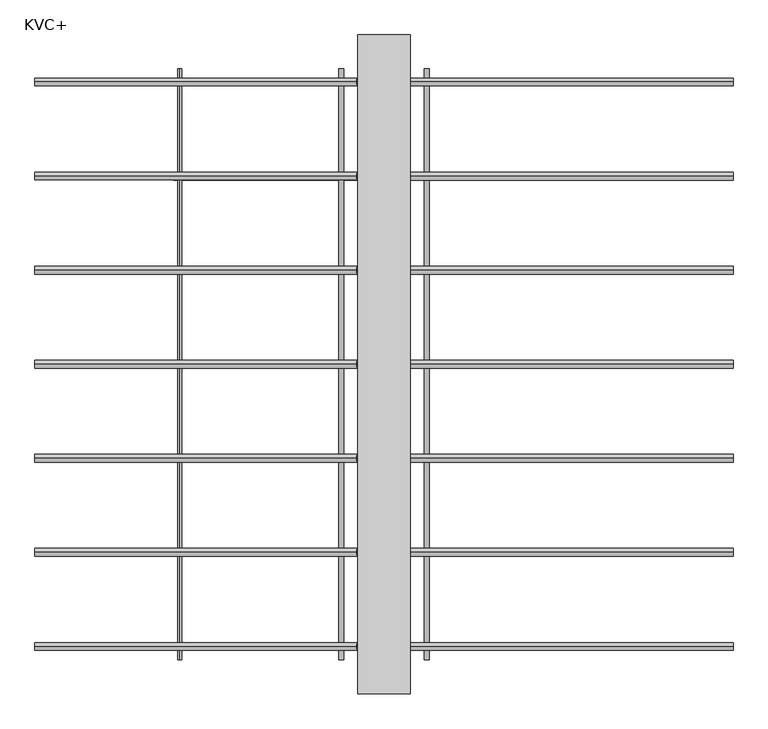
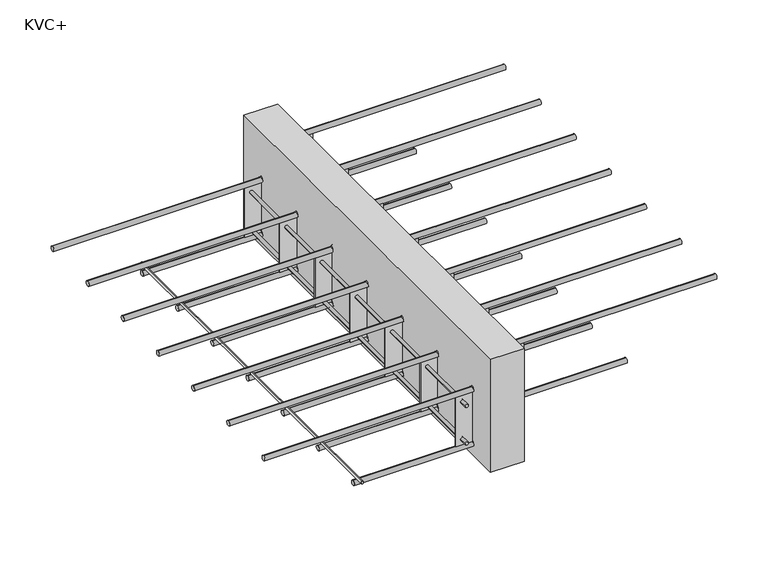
"""IFC4 building model written with IfcOpenShell, lengths in millimetres: proxy geometry, ACINOXplus_Typenreihe_KV : KVC+."""

from ifc_helpers import new_model, si_unit, point, frame, frame_2d, origin, place, context, project, spatial, polyline, circle_curve, ellipse_curve, trimmed, segment, composite_curve, outline, extrude, source, transform, mapped, element, save
from ifc_brep_helpers import plane_surface, cylinder_surface, advanced_brep


def kvc_4df102f3(model_context):
    return source(origin(), model_context, "Body", "SolidModel", [
        extrude(outline(polyline([(40.0, 500.0), (40.0, -500.0), (-40.0, -500.0), (-40.0, 500.0), (40.0, 500.0)])), frame((0.0, 0.0, -200.0), z_axis=(0.0, 0.0, 1.0), x_axis=(1.0, 0.0, 0.0)), (0.0, 0.0, 1.0), 280.0),
        extrude(outline(polyline([(-42.0, -40.0), (-42.0, -80.0), (-165.0, -80.0), (-165.0, -40.0), (-85.0, 40.0), (-85.0, 80.0), (38.0, 80.0), (38.0, 40.0), (-42.0, -40.0)])), frame((0.0, 284.2142857, 0.0), z_axis=(0.0, 1.0, 0.0), x_axis=(0.0, 0.0, 1.0)), (0.0, 0.0, 1.0), 3.0),
        extrude(outline(polyline([(-42.0, -40.0), (-42.0, -80.0), (-165.0, -80.0), (-165.0, -40.0), (-85.0, 40.0), (-85.0, 80.0), (38.0, 80.0), (38.0, 40.0), (-42.0, -40.0)])), frame((0.0, 141.3571429, 0.0), z_axis=(0.0, 1.0, 0.0), x_axis=(0.0, 0.0, 1.0)), (0.0, 0.0, 1.0), 3.0),
        extrude(outline(polyline([(-42.0, -40.0), (-42.0, -80.0), (-165.0, -80.0), (-165.0, -40.0), (-85.0, 40.0), (-85.0, 80.0), (38.0, 80.0), (38.0, 40.0), (-42.0, -40.0)])), frame((0.0, -1.5, 0.0), z_axis=(0.0, 1.0, 0.0), x_axis=(0.0, 0.0, 1.0)), (0.0, 0.0, 1.0), 3.0),
        extrude(outline(polyline([(-42.0, -40.0), (-42.0, -80.0), (-165.0, -80.0), (-165.0, -40.0), (-85.0, 40.0), (-85.0, 80.0), (38.0, 80.0), (38.0, 40.0), (-42.0, -40.0)])), frame((0.0, -144.3571429, 0.0), z_axis=(0.0, 1.0, 0.0), x_axis=(0.0, 0.0, 1.0)), (0.0, 0.0, 1.0), 3.0),
        extrude(outline(polyline([(-42.0, -40.0), (-42.0, -80.0), (-165.0, -80.0), (-165.0, -40.0), (-85.0, 40.0), (-85.0, 80.0), (38.0, 80.0), (38.0, 40.0), (-42.0, -40.0)])), frame((0.0, -287.2142857, 0.0), z_axis=(0.0, 1.0, 0.0), x_axis=(0.0, 0.0, 1.0)), (0.0, 0.0, 1.0), 3.0),
        extrude(outline(polyline([(-42.0, -40.0), (-42.0, -80.0), (-165.0, -80.0), (-165.0, -40.0), (-85.0, 40.0), (-85.0, 80.0), (38.0, 80.0), (38.0, 40.0), (-42.0, -40.0)])), frame((0.0, 427.0714286, 0.0), z_axis=(0.0, 1.0, 0.0), x_axis=(0.0, 0.0, 1.0)), (0.0, 0.0, 1.0), 3.0),
        extrude(outline(polyline([(-42.0, -40.0), (-42.0, -80.0), (-165.0, -80.0), (-165.0, -40.0), (-85.0, 40.0), (-85.0, 80.0), (38.0, 80.0), (38.0, 40.0), (-42.0, -40.0)])), frame((0.0, -430.0714286, 0.0), z_axis=(0.0, 1.0, 0.0), x_axis=(0.0, 0.0, 1.0)), (0.0, 0.0, 1.0), 3.0),
        extrude(outline(composite_curve([segment(trimmed(circle_curve(frame_2d((-150.0, -65.0)), 4.0), [point((-150.0, -69.0))], [point((-150.0, -61.0))], False, "CARTESIAN"), True, "CONTINUOUS"), segment(trimmed(circle_curve(frame_2d((-150.0, -65.0)), 4.0), [point((-150.0, -61.0))], [point((-150.0, -69.0))], False, "CARTESIAN"), True, "CONTINUOUS")], self_intersect=False)), frame((0.0, 430.0714286, 0.0), z_axis=(0.0, 1.0, 0.0), x_axis=(0.0, 0.0, 1.0)), (0.0, 0.0, 1.0), 18.5),
        extrude(outline(composite_curve([segment(trimmed(circle_curve(frame_2d((-150.0, -65.0)), 4.0), [point((-150.0, -61.0))], [point((-150.0, -69.0))], False, "CARTESIAN"), True, "CONTINUOUS"), segment(trimmed(circle_curve(frame_2d((-150.0, -65.0)), 4.0), [point((-150.0, -69.0))], [point((-150.0, -61.0))], False, "CARTESIAN"), True, "CONTINUOUS")], self_intersect=False)), frame((0.0, -448.5714286, 0.0), z_axis=(0.0, 1.0, 0.0), x_axis=(0.0, 0.0, 1.0)), (0.0, 0.0, 1.0), 18.5),
        extrude(outline(composite_curve([segment(trimmed(circle_curve(frame_2d((-150.0, -65.0)), 4.0), [point((-150.0, -69.0))], [point((-150.0, -61.0))], False, "CARTESIAN"), True, "CONTINUOUS"), segment(trimmed(circle_curve(frame_2d((-150.0, -65.0)), 4.0), [point((-150.0, -61.0))], [point((-150.0, -69.0))], False, "CARTESIAN"), True, "CONTINUOUS")], self_intersect=False)), frame((0.0, -427.0714286, 0.0), z_axis=(0.0, 1.0, 0.0), x_axis=(0.0, 0.0, 1.0)), (0.0, 0.0, 1.0), 139.8571429),
        extrude(outline(composite_curve([segment(trimmed(circle_curve(frame_2d((-150.0, -65.0)), 4.0), [point((-150.0, -69.0))], [point((-150.0, -61.0))], False, "CARTESIAN"), True, "CONTINUOUS"), segment(trimmed(circle_curve(frame_2d((-150.0, -65.0)), 4.0), [point((-150.0, -61.0))], [point((-150.0, -69.0))], False, "CARTESIAN"), True, "CONTINUOUS")], self_intersect=False)), frame((0.0, -284.2142857, 0.0), z_axis=(0.0, 1.0, 0.0), x_axis=(0.0, 0.0, 1.0)), (0.0, 0.0, 1.0), 711.2857143),
        extrude(outline(composite_curve([segment(trimmed(circle_curve(frame_2d((-70.0, 65.0)), 4.0), [point((-70.0, 61.0))], [point((-70.0, 69.0))], False, "CARTESIAN"), True, "CONTINUOUS"), segment(trimmed(circle_curve(frame_2d((-70.0, 65.0)), 4.0), [point((-70.0, 69.0))], [point((-70.0, 61.0))], False, "CARTESIAN"), True, "CONTINUOUS")], self_intersect=False)), frame((0.0, 430.0714286, 0.0), z_axis=(0.0, 1.0, 0.0), x_axis=(0.0, 0.0, 1.0)), (0.0, 0.0, 1.0), 18.5),
        extrude(outline(composite_curve([segment(trimmed(circle_curve(frame_2d((-70.0, 65.0)), 4.0), [point((-70.0, 69.0))], [point((-70.0, 61.0))], False, "CARTESIAN"), True, "CONTINUOUS"), segment(trimmed(circle_curve(frame_2d((-70.0, 65.0)), 4.0), [point((-70.0, 61.0))], [point((-70.0, 69.0))], False, "CARTESIAN"), True, "CONTINUOUS")], self_intersect=False)), frame((0.0, -448.5714286, 0.0), z_axis=(0.0, 1.0, 0.0), x_axis=(0.0, 0.0, 1.0)), (0.0, 0.0, 1.0), 18.5),
        extrude(outline(composite_curve([segment(trimmed(circle_curve(frame_2d((-70.0, 65.0)), 4.0), [point((-70.0, 61.0))], [point((-70.0, 69.0))], False, "CARTESIAN"), True, "CONTINUOUS"), segment(trimmed(circle_curve(frame_2d((-70.0, 65.0)), 4.0), [point((-70.0, 69.0))], [point((-70.0, 61.0))], False, "CARTESIAN"), True, "CONTINUOUS")], self_intersect=False)), frame((0.0, -284.2142857, 0.0), z_axis=(0.0, 1.0, 0.0), x_axis=(0.0, 0.0, 1.0)), (0.0, 0.0, 1.0), 711.2857143),
        extrude(outline(composite_curve([segment(trimmed(circle_curve(frame_2d((-70.0, 65.0)), 4.0), [point((-70.0, 61.0))], [point((-70.0, 69.0))], False, "CARTESIAN"), True, "CONTINUOUS"), segment(trimmed(circle_curve(frame_2d((-70.0, 65.0)), 4.0), [point((-70.0, 69.0))], [point((-70.0, 61.0))], False, "CARTESIAN"), True, "CONTINUOUS")], self_intersect=False)), frame((0.0, -427.0714286, 0.0), z_axis=(0.0, 1.0, 0.0), x_axis=(0.0, 0.0, 1.0)), (0.0, 0.0, 1.0), 139.8571429),
        extrude(outline(composite_curve([segment(trimmed(circle_curve(frame_2d((-57.0, -65.0)), 4.0), [point((-57.0, -69.0))], [point((-57.0, -61.0))], False, "CARTESIAN"), True, "CONTINUOUS"), segment(trimmed(circle_curve(frame_2d((-57.0, -65.0)), 4.0), [point((-57.0, -61.0))], [point((-57.0, -69.0))], False, "CARTESIAN"), True, "CONTINUOUS")], self_intersect=False)), frame((0.0, 430.0714286, 0.0), z_axis=(0.0, 1.0, 0.0), x_axis=(0.0, 0.0, 1.0)), (0.0, 0.0, 1.0), 18.5),
        extrude(outline(composite_curve([segment(trimmed(circle_curve(frame_2d((-57.0, -65.0)), 4.0), [point((-57.0, -61.0))], [point((-57.0, -69.0))], False, "CARTESIAN"), True, "CONTINUOUS"), segment(trimmed(circle_curve(frame_2d((-57.0, -65.0)), 4.0), [point((-57.0, -69.0))], [point((-57.0, -61.0))], False, "CARTESIAN"), True, "CONTINUOUS")], self_intersect=False)), frame((0.0, -448.5714286, 0.0), z_axis=(0.0, 1.0, 0.0), x_axis=(0.0, 0.0, 1.0)), (0.0, 0.0, 1.0), 18.5),
        extrude(outline(composite_curve([segment(trimmed(circle_curve(frame_2d((-57.0, -65.0)), 4.0), [point((-57.0, -69.0))], [point((-57.0, -61.0))], False, "CARTESIAN"), True, "CONTINUOUS"), segment(trimmed(circle_curve(frame_2d((-57.0, -65.0)), 4.0), [point((-57.0, -61.0))], [point((-57.0, -69.0))], False, "CARTESIAN"), True, "CONTINUOUS")], self_intersect=False)), frame((0.0, -427.0714286, 0.0), z_axis=(0.0, 1.0, 0.0), x_axis=(0.0, 0.0, 1.0)), (0.0, 0.0, 1.0), 139.8571429),
        extrude(outline(composite_curve([segment(trimmed(circle_curve(frame_2d((-57.0, -65.0)), 4.0), [point((-57.0, -69.0))], [point((-57.0, -61.0))], False, "CARTESIAN"), True, "CONTINUOUS"), segment(trimmed(circle_curve(frame_2d((-57.0, -65.0)), 4.0), [point((-57.0, -61.0))], [point((-57.0, -69.0))], False, "CARTESIAN"), True, "CONTINUOUS")], self_intersect=False)), frame((0.0, -284.2142857, 0.0), z_axis=(0.0, 1.0, 0.0), x_axis=(0.0, 0.0, 1.0)), (0.0, 0.0, 1.0), 711.2857143),
        extrude(outline(composite_curve([segment(trimmed(circle_curve(frame_2d((23.0, 65.0)), 4.0), [point((23.0, 61.0))], [point((23.0, 69.0))], False, "CARTESIAN"), True, "CONTINUOUS"), segment(trimmed(circle_curve(frame_2d((23.0, 65.0)), 4.0), [point((23.0, 69.0))], [point((23.0, 61.0))], False, "CARTESIAN"), True, "CONTINUOUS")], self_intersect=False)), frame((0.0, 430.0714286, 0.0), z_axis=(0.0, 1.0, 0.0), x_axis=(0.0, 0.0, 1.0)), (0.0, 0.0, 1.0), 18.5),
        extrude(outline(composite_curve([segment(trimmed(circle_curve(frame_2d((23.0, 65.0)), 4.0), [point((23.0, 69.0))], [point((23.0, 61.0))], False, "CARTESIAN"), True, "CONTINUOUS"), segment(trimmed(circle_curve(frame_2d((23.0, 65.0)), 4.0), [point((23.0, 61.0))], [point((23.0, 69.0))], False, "CARTESIAN"), True, "CONTINUOUS")], self_intersect=False)), frame((0.0, -448.5714286, 0.0), z_axis=(0.0, 1.0, 0.0), x_axis=(0.0, 0.0, 1.0)), (0.0, 0.0, 1.0), 18.5),
        extrude(outline(composite_curve([segment(trimmed(circle_curve(frame_2d((23.0, 65.0)), 4.0), [point((23.0, 61.0))], [point((23.0, 69.0))], False, "CARTESIAN"), True, "CONTINUOUS"), segment(trimmed(circle_curve(frame_2d((23.0, 65.0)), 4.0), [point((23.0, 69.0))], [point((23.0, 61.0))], False, "CARTESIAN"), True, "CONTINUOUS")], self_intersect=False)), frame((0.0, -284.2142857, 0.0), z_axis=(0.0, 1.0, 0.0), x_axis=(0.0, 0.0, 1.0)), (0.0, 0.0, 1.0), 711.2857143),
        extrude(outline(composite_curve([segment(trimmed(circle_curve(frame_2d((23.0, 65.0)), 4.0), [point((23.0, 61.0))], [point((23.0, 69.0))], False, "CARTESIAN"), True, "CONTINUOUS"), segment(trimmed(circle_curve(frame_2d((23.0, 65.0)), 4.0), [point((23.0, 69.0))], [point((23.0, 61.0))], False, "CARTESIAN"), True, "CONTINUOUS")], self_intersect=False)), frame((0.0, -427.0714286, 0.0), z_axis=(0.0, 1.0, 0.0), x_axis=(0.0, 0.0, 1.0)), (0.0, 0.0, 1.0), 139.8571429),
        advanced_brep(
        [(-320.0, 142.8571429, -177.0), (-320.0, 142.8571429, -165.0), (-37.5147186, 142.8571429, -177.0), (-42.4852814, 142.8571429, -165.0), (42.4852814, 142.8571429, -97.0), (37.5147186, 142.8571429, -85.0), (320.0, 142.8571429, -97.0), (320.0, 142.8571429, -85.0)],
        [
            (0, 1, circle_curve(frame((-320.0, 142.8571429, -171.0), z_axis=(-1.0, 0.0, 0.0), x_axis=(0.0, 0.0, 1.0)), 6.0)),
            (1, 0, circle_curve(frame((-320.0, 142.8571429, -171.0), z_axis=(-1.0, 0.0, 0.0), x_axis=(0.0, 0.0, 1.0)), 6.0)),
            (0, 2),
            (2, 3, ellipse_curve(frame((-40.0, 142.8571429, -171.0), z_axis=(-0.9238795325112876, 0.0, -0.382683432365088), x_axis=(-0.3826834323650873, 0.0, 0.923879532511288)), 6.4943532, 6.0)),
            (3, 1),
            (3, 2, ellipse_curve(frame((-40.0, 142.8571429, -171.0), z_axis=(-0.9238795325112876, 0.0, -0.382683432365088), x_axis=(-0.3826834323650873, 0.0, 0.923879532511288)), 6.4943532, 6.0)),
            (2, 4),
            (4, 5, ellipse_curve(frame((40.0, 142.8571429, -91.0), z_axis=(-0.9238795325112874, 0.0, -0.382683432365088), x_axis=(0.3826834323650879, 0.0, -0.9238795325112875)), 6.4943532, 6.0)),
            (5, 3),
            (5, 4, ellipse_curve(frame((40.0, 142.8571429, -91.0), z_axis=(-0.9238795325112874, 0.0, -0.382683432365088), x_axis=(0.3826834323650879, 0.0, -0.9238795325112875)), 6.4943532, 6.0)),
            (6, 7, circle_curve(frame((320.0, 142.8571429, -91.0), z_axis=(1.0, 0.0, 0.0), x_axis=(0.0, 0.0, 1.0)), 6.0)),
            (7, 6, circle_curve(frame((320.0, 142.8571429, -91.0), z_axis=(1.0, 0.0, 0.0), x_axis=(0.0, 0.0, 1.0)), 6.0)),
            (4, 6),
            (7, 5),
        ],
        [
            plane_surface(frame((-320.0, 142.8571429, -171.0), z_axis=(-1.0, 0.0, 0.0), x_axis=(0.0, -1.0, 0.0))),
            cylinder_surface(frame((-320.0, 142.8571429, -171.0), z_axis=(-1.0, 0.0, 0.0), x_axis=(0.0, 0.0, 1.0)), 6.0),
            cylinder_surface(frame((-40.0, 142.8571429, -171.0), z_axis=(-0.707106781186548, 0.0, -0.707106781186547), x_axis=(-0.707106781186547, 0.0, 0.707106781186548)), 6.0),
            plane_surface(frame((320.0, 142.8571429, -91.0), z_axis=(1.0, 0.0, 0.0), x_axis=(0.0, -1.0, 0.0))),
            cylinder_surface(frame((40.0, 142.8571429, -91.0), z_axis=(-1.0, 0.0, 0.0), x_axis=(0.0, 0.0, 1.0)), 6.0),
        ],
        [
            (0, [[1, 2]]),
            (1, [[-1, 3, 4, 5]]),
            (1, [[-2, -5, 6, -3]]),
            (2, [[-4, 7, 8, 9]]),
            (2, [[-6, -9, 10, -7]]),
            (3, [[11, 12]]),
            (4, [[-8, 13, -12, 14]]),
            (4, [[-10, -14, -11, -13]]),
        ],
    ),
        advanced_brep(
        [(-320.0, 0.0, -177.0), (-320.0, 0.0, -165.0), (-37.5147186, 0.0, -177.0), (-42.4852814, 0.0, -165.0), (42.4852814, 0.0, -97.0), (37.5147186, 0.0, -85.0), (320.0, 0.0, -97.0), (320.0, 0.0, -85.0)],
        [
            (0, 1, circle_curve(frame((-320.0, 0.0, -171.0), z_axis=(-1.0, 0.0, 0.0), x_axis=(0.0, 0.0, 1.0)), 6.0)),
            (1, 0, circle_curve(frame((-320.0, 0.0, -171.0), z_axis=(-1.0, 0.0, 0.0), x_axis=(0.0, 0.0, 1.0)), 6.0)),
            (0, 2),
            (2, 3, ellipse_curve(frame((-40.0, 0.0, -171.0), z_axis=(-0.9238795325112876, 0.0, -0.382683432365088), x_axis=(-0.3826834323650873, 0.0, 0.923879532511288)), 6.4943532, 6.0)),
            (3, 1),
            (3, 2, ellipse_curve(frame((-40.0, 0.0, -171.0), z_axis=(-0.9238795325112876, 0.0, -0.382683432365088), x_axis=(-0.3826834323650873, 0.0, 0.923879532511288)), 6.4943532, 6.0)),
            (2, 4),
            (4, 5, ellipse_curve(frame((40.0, 0.0, -91.0), z_axis=(-0.9238795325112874, 0.0, -0.382683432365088), x_axis=(0.3826834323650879, 0.0, -0.9238795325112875)), 6.4943532, 6.0)),
            (5, 3),
            (5, 4, ellipse_curve(frame((40.0, 0.0, -91.0), z_axis=(-0.9238795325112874, 0.0, -0.382683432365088), x_axis=(0.3826834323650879, 0.0, -0.9238795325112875)), 6.4943532, 6.0)),
            (6, 7, circle_curve(frame((320.0, 0.0, -91.0), z_axis=(1.0, 0.0, 0.0), x_axis=(0.0, 0.0, 1.0)), 6.0)),
            (7, 6, circle_curve(frame((320.0, 0.0, -91.0), z_axis=(1.0, 0.0, 0.0), x_axis=(0.0, 0.0, 1.0)), 6.0)),
            (4, 6),
            (7, 5),
        ],
        [
            plane_surface(frame((-320.0, 0.0, -171.0), z_axis=(-1.0, 0.0, 0.0), x_axis=(0.0, -1.0, 0.0))),
            cylinder_surface(frame((-320.0, 0.0, -171.0), z_axis=(-1.0, 0.0, 0.0), x_axis=(0.0, 0.0, 1.0)), 6.0),
            cylinder_surface(frame((-40.0, 0.0, -171.0), z_axis=(-0.707106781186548, 0.0, -0.707106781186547), x_axis=(-0.707106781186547, 0.0, 0.707106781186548)), 6.0),
            plane_surface(frame((320.0, 0.0, -91.0), z_axis=(1.0, 0.0, 0.0), x_axis=(0.0, -1.0, 0.0))),
            cylinder_surface(frame((40.0, 0.0, -91.0), z_axis=(-1.0, 0.0, 0.0), x_axis=(0.0, 0.0, 1.0)), 6.0),
        ],
        [
            (0, [[1, 2]]),
            (1, [[-1, 3, 4, 5]]),
            (1, [[-2, -5, 6, -3]]),
            (2, [[-4, 7, 8, 9]]),
            (2, [[-6, -9, 10, -7]]),
            (3, [[11, 12]]),
            (4, [[-8, 13, -12, 14]]),
            (4, [[-10, -14, -11, -13]]),
        ],
    ),
        advanced_brep(
        [(-320.0, -142.8571429, -177.0), (-320.0, -142.8571429, -165.0), (-37.5147186, -142.8571429, -177.0), (-42.4852814, -142.8571429, -165.0), (42.4852814, -142.8571429, -97.0), (37.5147186, -142.8571429, -85.0), (320.0, -142.8571429, -97.0), (320.0, -142.8571429, -85.0)],
        [
            (0, 1, circle_curve(frame((-320.0, -142.8571429, -171.0), z_axis=(-1.0, 0.0, 0.0), x_axis=(0.0, 0.0, 1.0)), 6.0)),
            (1, 0, circle_curve(frame((-320.0, -142.8571429, -171.0), z_axis=(-1.0, 0.0, 0.0), x_axis=(0.0, 0.0, 1.0)), 6.0)),
            (0, 2),
            (2, 3, ellipse_curve(frame((-40.0, -142.8571429, -171.0), z_axis=(-0.9238795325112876, 0.0, -0.382683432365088), x_axis=(-0.3826834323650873, 0.0, 0.923879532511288)), 6.4943532, 6.0)),
            (3, 1),
            (3, 2, ellipse_curve(frame((-40.0, -142.8571429, -171.0), z_axis=(-0.9238795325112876, 0.0, -0.382683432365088), x_axis=(-0.3826834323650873, 0.0, 0.923879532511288)), 6.4943532, 6.0)),
            (2, 4),
            (4, 5, ellipse_curve(frame((40.0, -142.8571429, -91.0), z_axis=(-0.9238795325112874, 0.0, -0.382683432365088), x_axis=(0.3826834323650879, 0.0, -0.9238795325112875)), 6.4943532, 6.0)),
            (5, 3),
            (5, 4, ellipse_curve(frame((40.0, -142.8571429, -91.0), z_axis=(-0.9238795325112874, 0.0, -0.382683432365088), x_axis=(0.3826834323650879, 0.0, -0.9238795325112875)), 6.4943532, 6.0)),
            (6, 7, circle_curve(frame((320.0, -142.8571429, -91.0), z_axis=(1.0, 0.0, 0.0), x_axis=(0.0, 0.0, 1.0)), 6.0)),
            (7, 6, circle_curve(frame((320.0, -142.8571429, -91.0), z_axis=(1.0, 0.0, 0.0), x_axis=(0.0, 0.0, 1.0)), 6.0)),
            (4, 6),
            (7, 5),
        ],
        [
            plane_surface(frame((-320.0, -142.8571429, -171.0), z_axis=(-1.0, 0.0, 0.0), x_axis=(0.0, -1.0, 0.0))),
            cylinder_surface(frame((-320.0, -142.8571429, -171.0), z_axis=(-1.0, 0.0, 0.0), x_axis=(0.0, 0.0, 1.0)), 6.0),
            cylinder_surface(frame((-40.0, -142.8571429, -171.0), z_axis=(-0.707106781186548, 0.0, -0.707106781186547), x_axis=(-0.707106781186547, 0.0, 0.707106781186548)), 6.0),
            plane_surface(frame((320.0, -142.8571429, -91.0), z_axis=(1.0, 0.0, 0.0), x_axis=(0.0, -1.0, 0.0))),
            cylinder_surface(frame((40.0, -142.8571429, -91.0), z_axis=(-1.0, 0.0, 0.0), x_axis=(0.0, 0.0, 1.0)), 6.0),
        ],
        [
            (0, [[1, 2]]),
            (1, [[-1, 3, 4, 5]]),
            (1, [[-2, -5, 6, -3]]),
            (2, [[-4, 7, 8, 9]]),
            (2, [[-6, -9, 10, -7]]),
            (3, [[11, 12]]),
            (4, [[-8, 13, -12, 14]]),
            (4, [[-10, -14, -11, -13]]),
        ],
    ),
        advanced_brep(
        [(-320.0, 285.7142857, -177.0), (-320.0, 285.7142857, -165.0), (-37.5147186, 285.7142857, -177.0), (-42.4852814, 285.7142857, -165.0), (42.4852814, 285.7142857, -97.0), (37.5147186, 285.7142857, -85.0), (320.0, 285.7142857, -97.0), (320.0, 285.7142857, -85.0)],
        [
            (0, 1, circle_curve(frame((-320.0, 285.7142857, -171.0), z_axis=(-1.0, 0.0, 0.0), x_axis=(0.0, 0.0, 1.0)), 6.0)),
            (1, 0, circle_curve(frame((-320.0, 285.7142857, -171.0), z_axis=(-1.0, 0.0, 0.0), x_axis=(0.0, 0.0, 1.0)), 6.0)),
            (0, 2),
            (2, 3, ellipse_curve(frame((-40.0, 285.7142857, -171.0), z_axis=(-0.9238795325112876, 0.0, -0.382683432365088), x_axis=(-0.3826834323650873, 0.0, 0.923879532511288)), 6.4943532, 6.0)),
            (3, 1),
            (3, 2, ellipse_curve(frame((-40.0, 285.7142857, -171.0), z_axis=(-0.9238795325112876, 0.0, -0.382683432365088), x_axis=(-0.3826834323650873, 0.0, 0.923879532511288)), 6.4943532, 6.0)),
            (2, 4),
            (4, 5, ellipse_curve(frame((40.0, 285.7142857, -91.0), z_axis=(-0.9238795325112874, 0.0, -0.382683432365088), x_axis=(0.3826834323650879, 0.0, -0.9238795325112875)), 6.4943532, 6.0)),
            (5, 3),
            (5, 4, ellipse_curve(frame((40.0, 285.7142857, -91.0), z_axis=(-0.9238795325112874, 0.0, -0.382683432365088), x_axis=(0.3826834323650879, 0.0, -0.9238795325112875)), 6.4943532, 6.0)),
            (6, 7, circle_curve(frame((320.0, 285.7142857, -91.0), z_axis=(1.0, 0.0, 0.0), x_axis=(0.0, 0.0, 1.0)), 6.0)),
            (7, 6, circle_curve(frame((320.0, 285.7142857, -91.0), z_axis=(1.0, 0.0, 0.0), x_axis=(0.0, 0.0, 1.0)), 6.0)),
            (4, 6),
            (7, 5),
        ],
        [
            plane_surface(frame((-320.0, 285.7142857, -171.0), z_axis=(-1.0, 0.0, 0.0), x_axis=(0.0, -1.0, 0.0))),
            cylinder_surface(frame((-320.0, 285.7142857, -171.0), z_axis=(-1.0, 0.0, 0.0), x_axis=(0.0, 0.0, 1.0)), 6.0),
            cylinder_surface(frame((-40.0, 285.7142857, -171.0), z_axis=(-0.707106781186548, 0.0, -0.707106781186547), x_axis=(-0.707106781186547, 0.0, 0.707106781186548)), 6.0),
            plane_surface(frame((320.0, 285.7142857, -91.0), z_axis=(1.0, 0.0, 0.0), x_axis=(0.0, -1.0, 0.0))),
            cylinder_surface(frame((40.0, 285.7142857, -91.0), z_axis=(-1.0, 0.0, 0.0), x_axis=(0.0, 0.0, 1.0)), 6.0),
        ],
        [
            (0, [[1, 2]]),
            (1, [[-1, 3, 4, 5]]),
            (1, [[-2, -5, 6, -3]]),
            (2, [[-4, 7, 8, 9]]),
            (2, [[-6, -9, 10, -7]]),
            (3, [[11, 12]]),
            (4, [[-8, 13, -12, 14]]),
            (4, [[-10, -14, -11, -13]]),
        ],
    ),
        advanced_brep(
        [(-320.0, 428.5714286, -177.0), (-320.0, 428.5714286, -165.0), (-37.5147186, 428.5714286, -177.0), (-42.4852814, 428.5714286, -165.0), (42.4852814, 428.5714286, -97.0), (37.5147186, 428.5714286, -85.0), (320.0, 428.5714286, -97.0), (320.0, 428.5714286, -85.0)],
        [
            (0, 1, circle_curve(frame((-320.0, 428.5714286, -171.0), z_axis=(-1.0, 0.0, 0.0), x_axis=(0.0, 0.0, 1.0)), 6.0)),
            (1, 0, circle_curve(frame((-320.0, 428.5714286, -171.0), z_axis=(-1.0, 0.0, 0.0), x_axis=(0.0, 0.0, 1.0)), 6.0)),
            (0, 2),
            (2, 3, ellipse_curve(frame((-40.0, 428.5714286, -171.0), z_axis=(-0.9238795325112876, 0.0, -0.382683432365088), x_axis=(-0.3826834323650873, 0.0, 0.923879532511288)), 6.4943532, 6.0)),
            (3, 1),
            (3, 2, ellipse_curve(frame((-40.0, 428.5714286, -171.0), z_axis=(-0.9238795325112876, 0.0, -0.382683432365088), x_axis=(-0.3826834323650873, 0.0, 0.923879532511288)), 6.4943532, 6.0)),
            (2, 4),
            (4, 5, ellipse_curve(frame((40.0, 428.5714286, -91.0), z_axis=(-0.9238795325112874, 0.0, -0.382683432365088), x_axis=(0.3826834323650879, 0.0, -0.9238795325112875)), 6.4943532, 6.0)),
            (5, 3),
            (5, 4, ellipse_curve(frame((40.0, 428.5714286, -91.0), z_axis=(-0.9238795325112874, 0.0, -0.382683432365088), x_axis=(0.3826834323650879, 0.0, -0.9238795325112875)), 6.4943532, 6.0)),
            (6, 7, circle_curve(frame((320.0, 428.5714286, -91.0), z_axis=(1.0, 0.0, 0.0), x_axis=(0.0, 0.0, 1.0)), 6.0)),
            (7, 6, circle_curve(frame((320.0, 428.5714286, -91.0), z_axis=(1.0, 0.0, 0.0), x_axis=(0.0, 0.0, 1.0)), 6.0)),
            (4, 6),
            (7, 5),
        ],
        [
            plane_surface(frame((-320.0, 428.5714286, -171.0), z_axis=(-1.0, 0.0, 0.0), x_axis=(0.0, -1.0, 0.0))),
            cylinder_surface(frame((-320.0, 428.5714286, -171.0), z_axis=(-1.0, 0.0, 0.0), x_axis=(0.0, 0.0, 1.0)), 6.0),
            cylinder_surface(frame((-40.0, 428.5714286, -171.0), z_axis=(-0.707106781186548, 0.0, -0.707106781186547), x_axis=(-0.707106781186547, 0.0, 0.707106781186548)), 6.0),
            plane_surface(frame((320.0, 428.5714286, -91.0), z_axis=(1.0, 0.0, 0.0), x_axis=(0.0, -1.0, 0.0))),
            cylinder_surface(frame((40.0, 428.5714286, -91.0), z_axis=(-1.0, 0.0, 0.0), x_axis=(0.0, 0.0, 1.0)), 6.0),
        ],
        [
            (0, [[1, 2]]),
            (1, [[-1, 3, 4, 5]]),
            (1, [[-2, -5, 6, -3]]),
            (2, [[-4, 7, 8, 9]]),
            (2, [[-6, -9, 10, -7]]),
            (3, [[11, 12]]),
            (4, [[-8, 13, -12, 14]]),
            (4, [[-10, -14, -11, -13]]),
        ],
    ),
        advanced_brep(
        [(-320.0, -285.7142857, -177.0), (-320.0, -285.7142857, -165.0), (-37.5147186, -285.7142857, -177.0), (-42.4852814, -285.7142857, -165.0), (42.4852814, -285.7142857, -97.0), (37.5147186, -285.7142857, -85.0), (320.0, -285.7142857, -97.0), (320.0, -285.7142857, -85.0)],
        [
            (0, 1, circle_curve(frame((-320.0, -285.7142857, -171.0), z_axis=(-1.0, 0.0, 0.0), x_axis=(0.0, 0.0, 1.0)), 6.0)),
            (1, 0, circle_curve(frame((-320.0, -285.7142857, -171.0), z_axis=(-1.0, 0.0, 0.0), x_axis=(0.0, 0.0, 1.0)), 6.0)),
            (0, 2),
            (2, 3, ellipse_curve(frame((-40.0, -285.7142857, -171.0), z_axis=(-0.9238795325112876, 0.0, -0.382683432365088), x_axis=(-0.3826834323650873, 0.0, 0.923879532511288)), 6.4943532, 6.0)),
            (3, 1),
            (3, 2, ellipse_curve(frame((-40.0, -285.7142857, -171.0), z_axis=(-0.9238795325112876, 0.0, -0.382683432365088), x_axis=(-0.3826834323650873, 0.0, 0.923879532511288)), 6.4943532, 6.0)),
            (2, 4),
            (4, 5, ellipse_curve(frame((40.0, -285.7142857, -91.0), z_axis=(-0.9238795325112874, 0.0, -0.382683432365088), x_axis=(0.3826834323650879, 0.0, -0.9238795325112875)), 6.4943532, 6.0)),
            (5, 3),
            (5, 4, ellipse_curve(frame((40.0, -285.7142857, -91.0), z_axis=(-0.9238795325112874, 0.0, -0.382683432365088), x_axis=(0.3826834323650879, 0.0, -0.9238795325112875)), 6.4943532, 6.0)),
            (6, 7, circle_curve(frame((320.0, -285.7142857, -91.0), z_axis=(1.0, 0.0, 0.0), x_axis=(0.0, 0.0, 1.0)), 6.0)),
            (7, 6, circle_curve(frame((320.0, -285.7142857, -91.0), z_axis=(1.0, 0.0, 0.0), x_axis=(0.0, 0.0, 1.0)), 6.0)),
            (4, 6),
            (7, 5),
        ],
        [
            plane_surface(frame((-320.0, -285.7142857, -171.0), z_axis=(-1.0, 0.0, 0.0), x_axis=(0.0, -1.0, 0.0))),
            cylinder_surface(frame((-320.0, -285.7142857, -171.0), z_axis=(-1.0, 0.0, 0.0), x_axis=(0.0, 0.0, 1.0)), 6.0),
            cylinder_surface(frame((-40.0, -285.7142857, -171.0), z_axis=(-0.707106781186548, 0.0, -0.707106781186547), x_axis=(-0.707106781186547, 0.0, 0.707106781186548)), 6.0),
            plane_surface(frame((320.0, -285.7142857, -91.0), z_axis=(1.0, 0.0, 0.0), x_axis=(0.0, -1.0, 0.0))),
            cylinder_surface(frame((40.0, -285.7142857, -91.0), z_axis=(-1.0, 0.0, 0.0), x_axis=(0.0, 0.0, 1.0)), 6.0),
        ],
        [
            (0, [[1, 2]]),
            (1, [[-1, 3, 4, 5]]),
            (1, [[-2, -5, 6, -3]]),
            (2, [[-4, 7, 8, 9]]),
            (2, [[-6, -9, 10, -7]]),
            (3, [[11, 12]]),
            (4, [[-8, 13, -12, 14]]),
            (4, [[-10, -14, -11, -13]]),
        ],
    ),
        advanced_brep(
        [(-320.0, -428.5714286, -177.0), (-320.0, -428.5714286, -165.0), (-37.5147186, -428.5714286, -177.0), (-42.4852814, -428.5714286, -165.0), (42.4852814, -428.5714286, -97.0), (37.5147186, -428.5714286, -85.0), (320.0, -428.5714286, -97.0), (320.0, -428.5714286, -85.0)],
        [
            (0, 1, circle_curve(frame((-320.0, -428.5714286, -171.0), z_axis=(-1.0, 0.0, 0.0), x_axis=(0.0, 0.0, 1.0)), 6.0)),
            (1, 0, circle_curve(frame((-320.0, -428.5714286, -171.0), z_axis=(-1.0, 0.0, 0.0), x_axis=(0.0, 0.0, 1.0)), 6.0)),
            (0, 2),
            (2, 3, ellipse_curve(frame((-40.0, -428.5714286, -171.0), z_axis=(-0.9238795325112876, 0.0, -0.382683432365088), x_axis=(-0.3826834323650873, 0.0, 0.923879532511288)), 6.4943532, 6.0)),
            (3, 1),
            (3, 2, ellipse_curve(frame((-40.0, -428.5714286, -171.0), z_axis=(-0.9238795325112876, 0.0, -0.382683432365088), x_axis=(-0.3826834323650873, 0.0, 0.923879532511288)), 6.4943532, 6.0)),
            (2, 4),
            (4, 5, ellipse_curve(frame((40.0, -428.5714286, -91.0), z_axis=(-0.9238795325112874, 0.0, -0.382683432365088), x_axis=(0.3826834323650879, 0.0, -0.9238795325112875)), 6.4943532, 6.0)),
            (5, 3),
            (5, 4, ellipse_curve(frame((40.0, -428.5714286, -91.0), z_axis=(-0.9238795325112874, 0.0, -0.382683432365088), x_axis=(0.3826834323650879, 0.0, -0.9238795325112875)), 6.4943532, 6.0)),
            (6, 7, circle_curve(frame((320.0, -428.5714286, -91.0), z_axis=(1.0, 0.0, 0.0), x_axis=(0.0, 0.0, 1.0)), 6.0)),
            (7, 6, circle_curve(frame((320.0, -428.5714286, -91.0), z_axis=(1.0, 0.0, 0.0), x_axis=(0.0, 0.0, 1.0)), 6.0)),
            (4, 6),
            (7, 5),
        ],
        [
            plane_surface(frame((-320.0, -428.5714286, -171.0), z_axis=(-1.0, 0.0, 0.0), x_axis=(0.0, -1.0, 0.0))),
            cylinder_surface(frame((-320.0, -428.5714286, -171.0), z_axis=(-1.0, 0.0, 0.0), x_axis=(0.0, 0.0, 1.0)), 6.0),
            cylinder_surface(frame((-40.0, -428.5714286, -171.0), z_axis=(-0.707106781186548, 0.0, -0.707106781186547), x_axis=(-0.707106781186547, 0.0, 0.707106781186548)), 6.0),
            plane_surface(frame((320.0, -428.5714286, -91.0), z_axis=(1.0, 0.0, 0.0), x_axis=(0.0, -1.0, 0.0))),
            cylinder_surface(frame((40.0, -428.5714286, -91.0), z_axis=(-1.0, 0.0, 0.0), x_axis=(0.0, 0.0, 1.0)), 6.0),
        ],
        [
            (0, [[1, 2]]),
            (1, [[-1, 3, 4, 5]]),
            (1, [[-2, -5, 6, -3]]),
            (2, [[-4, 7, 8, 9]]),
            (2, [[-6, -9, 10, -7]]),
            (3, [[11, 12]]),
            (4, [[-8, 13, -12, 14]]),
            (4, [[-10, -14, -11, -13]]),
        ],
    ),
        advanced_brep(
        [(-530.0, 142.8571429, -42.0), (-530.0, 142.8571429, -30.0), (-37.5147186, 142.8571429, -42.0), (-42.4852814, 142.8571429, -30.0), (530.0, 142.8571429, 38.0), (530.0, 142.8571429, 50.0), (37.5147186, 142.8571429, 50.0), (42.4852814, 142.8571429, 38.0)],
        [
            (0, 1, circle_curve(frame((-530.0, 142.8571429, -36.0), z_axis=(-1.0, 0.0, 0.0), x_axis=(0.0, 0.0, 1.0)), 6.0)),
            (1, 0, circle_curve(frame((-530.0, 142.8571429, -36.0), z_axis=(-1.0, 0.0, 0.0), x_axis=(0.0, 0.0, 1.0)), 6.0)),
            (0, 2),
            (2, 3, ellipse_curve(frame((-40.0, 142.8571429, -36.0), z_axis=(-0.923879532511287, 0.0, -0.38268343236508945), x_axis=(-0.38268343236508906, 0.0, 0.9238795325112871)), 6.4943532, 6.0)),
            (3, 1),
            (3, 2, ellipse_curve(frame((-40.0, 142.8571429, -36.0), z_axis=(-0.923879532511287, 0.0, -0.38268343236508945), x_axis=(-0.38268343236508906, 0.0, 0.9238795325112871)), 6.4943532, 6.0)),
            (4, 5, circle_curve(frame((530.0, 142.8571429, 44.0), z_axis=(1.0, 0.0, 0.0), x_axis=(0.0, 0.0, 1.0)), 6.0)),
            (5, 4, circle_curve(frame((530.0, 142.8571429, 44.0), z_axis=(1.0, 0.0, 0.0), x_axis=(0.0, 0.0, 1.0)), 6.0)),
            (6, 7, ellipse_curve(frame((40.0, 142.8571429, 44.0), z_axis=(0.923879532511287, 0.0, 0.38268343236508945), x_axis=(-0.38268343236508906, 0.0, 0.9238795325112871)), 6.4943532, 6.0)),
            (7, 4),
            (5, 6),
            (7, 6, ellipse_curve(frame((40.0, 142.8571429, 44.0), z_axis=(0.923879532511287, 0.0, 0.38268343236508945), x_axis=(-0.38268343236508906, 0.0, 0.9238795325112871)), 6.4943532, 6.0)),
            (2, 7),
            (6, 3),
        ],
        [
            plane_surface(frame((-530.0, 142.8571429, -36.0), z_axis=(-1.0, 0.0, 0.0), x_axis=(0.0, -1.0, 0.0))),
            cylinder_surface(frame((-530.0, 142.8571429, -36.0), z_axis=(-1.0, 0.0, 0.0), x_axis=(0.0, 0.0, 1.0)), 6.0),
            plane_surface(frame((530.0, 142.8571429, 44.0), z_axis=(1.0, 0.0, 0.0), x_axis=(0.0, -1.0, 0.0))),
            cylinder_surface(frame((40.0, 142.8571429, 44.0), z_axis=(-1.0, 0.0, 0.0), x_axis=(0.0, 0.0, 1.0)), 6.0),
            cylinder_surface(frame((-40.0, 142.8571429, -36.0), z_axis=(-0.7071067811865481, 0.0, -0.707106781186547), x_axis=(-0.707106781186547, 0.0, 0.7071067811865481)), 6.0),
        ],
        [
            (0, [[1, 2]]),
            (1, [[-1, 3, 4, 5]]),
            (1, [[-2, -5, 6, -3]]),
            (2, [[7, 8]]),
            (3, [[9, 10, -8, 11]]),
            (3, [[12, -11, -7, -10]]),
            (4, [[-4, 13, -9, 14]]),
            (4, [[-6, -14, -12, -13]]),
        ],
    ),
        advanced_brep(
        [(-530.0, 0.0, -42.0), (-530.0, 0.0, -30.0), (-37.5147186, 0.0, -42.0), (-42.4852814, 0.0, -30.0), (530.0, 0.0, 38.0), (530.0, 0.0, 50.0), (37.5147186, 0.0, 50.0), (42.4852814, 0.0, 38.0)],
        [
            (0, 1, circle_curve(frame((-530.0, 0.0, -36.0), z_axis=(-1.0, 0.0, 0.0), x_axis=(0.0, 0.0, 1.0)), 6.0)),
            (1, 0, circle_curve(frame((-530.0, 0.0, -36.0), z_axis=(-1.0, 0.0, 0.0), x_axis=(0.0, 0.0, 1.0)), 6.0)),
            (0, 2),
            (2, 3, ellipse_curve(frame((-40.0, 0.0, -36.0), z_axis=(-0.923879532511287, 0.0, -0.38268343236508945), x_axis=(-0.38268343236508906, 0.0, 0.9238795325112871)), 6.4943532, 6.0)),
            (3, 1),
            (3, 2, ellipse_curve(frame((-40.0, 0.0, -36.0), z_axis=(-0.923879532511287, 0.0, -0.38268343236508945), x_axis=(-0.38268343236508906, 0.0, 0.9238795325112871)), 6.4943532, 6.0)),
            (4, 5, circle_curve(frame((530.0, 0.0, 44.0), z_axis=(1.0, 0.0, 0.0), x_axis=(0.0, 0.0, 1.0)), 6.0)),
            (5, 4, circle_curve(frame((530.0, 0.0, 44.0), z_axis=(1.0, 0.0, 0.0), x_axis=(0.0, 0.0, 1.0)), 6.0)),
            (6, 7, ellipse_curve(frame((40.0, 0.0, 44.0), z_axis=(0.923879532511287, 0.0, 0.38268343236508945), x_axis=(-0.38268343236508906, 0.0, 0.9238795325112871)), 6.4943532, 6.0)),
            (7, 4),
            (5, 6),
            (7, 6, ellipse_curve(frame((40.0, 0.0, 44.0), z_axis=(0.923879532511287, 0.0, 0.38268343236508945), x_axis=(-0.38268343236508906, 0.0, 0.9238795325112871)), 6.4943532, 6.0)),
            (2, 7),
            (6, 3),
        ],
        [
            plane_surface(frame((-530.0, 0.0, -36.0), z_axis=(-1.0, 0.0, 0.0), x_axis=(0.0, -1.0, 0.0))),
            cylinder_surface(frame((-530.0, 0.0, -36.0), z_axis=(-1.0, 0.0, 0.0), x_axis=(0.0, 0.0, 1.0)), 6.0),
            plane_surface(frame((530.0, 0.0, 44.0), z_axis=(1.0, 0.0, 0.0), x_axis=(0.0, -1.0, 0.0))),
            cylinder_surface(frame((40.0, 0.0, 44.0), z_axis=(-1.0, 0.0, 0.0), x_axis=(0.0, 0.0, 1.0)), 6.0),
            cylinder_surface(frame((-40.0, 0.0, -36.0), z_axis=(-0.7071067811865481, 0.0, -0.707106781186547), x_axis=(-0.707106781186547, 0.0, 0.7071067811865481)), 6.0),
        ],
        [
            (0, [[1, 2]]),
            (1, [[-1, 3, 4, 5]]),
            (1, [[-2, -5, 6, -3]]),
            (2, [[7, 8]]),
            (3, [[9, 10, -8, 11]]),
            (3, [[12, -11, -7, -10]]),
            (4, [[-4, 13, -9, 14]]),
            (4, [[-6, -14, -12, -13]]),
        ],
    ),
        advanced_brep(
        [(-530.0, -142.8571429, -42.0), (-530.0, -142.8571429, -30.0), (-37.5147186, -142.8571429, -42.0), (-42.4852814, -142.8571429, -30.0), (530.0, -142.8571429, 38.0), (530.0, -142.8571429, 50.0), (37.5147186, -142.8571429, 50.0), (42.4852814, -142.8571429, 38.0)],
        [
            (0, 1, circle_curve(frame((-530.0, -142.8571429, -36.0), z_axis=(-1.0, 0.0, 0.0), x_axis=(0.0, 0.0, 1.0)), 6.0)),
            (1, 0, circle_curve(frame((-530.0, -142.8571429, -36.0), z_axis=(-1.0, 0.0, 0.0), x_axis=(0.0, 0.0, 1.0)), 6.0)),
            (0, 2),
            (2, 3, ellipse_curve(frame((-40.0, -142.8571429, -36.0), z_axis=(-0.923879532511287, 0.0, -0.38268343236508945), x_axis=(-0.38268343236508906, 0.0, 0.9238795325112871)), 6.4943532, 6.0)),
            (3, 1),
            (3, 2, ellipse_curve(frame((-40.0, -142.8571429, -36.0), z_axis=(-0.923879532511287, 0.0, -0.38268343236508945), x_axis=(-0.38268343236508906, 0.0, 0.9238795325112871)), 6.4943532, 6.0)),
            (4, 5, circle_curve(frame((530.0, -142.8571429, 44.0), z_axis=(1.0, 0.0, 0.0), x_axis=(0.0, 0.0, 1.0)), 6.0)),
            (5, 4, circle_curve(frame((530.0, -142.8571429, 44.0), z_axis=(1.0, 0.0, 0.0), x_axis=(0.0, 0.0, 1.0)), 6.0)),
            (6, 7, ellipse_curve(frame((40.0, -142.8571429, 44.0), z_axis=(0.923879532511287, 0.0, 0.38268343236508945), x_axis=(-0.38268343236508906, 0.0, 0.9238795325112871)), 6.4943532, 6.0)),
            (7, 4),
            (5, 6),
            (7, 6, ellipse_curve(frame((40.0, -142.8571429, 44.0), z_axis=(0.923879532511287, 0.0, 0.38268343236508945), x_axis=(-0.38268343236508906, 0.0, 0.9238795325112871)), 6.4943532, 6.0)),
            (2, 7),
            (6, 3),
        ],
        [
            plane_surface(frame((-530.0, -142.8571429, -36.0), z_axis=(-1.0, 0.0, 0.0), x_axis=(0.0, -1.0, 0.0))),
            cylinder_surface(frame((-530.0, -142.8571429, -36.0), z_axis=(-1.0, 0.0, 0.0), x_axis=(0.0, 0.0, 1.0)), 6.0),
            plane_surface(frame((530.0, -142.8571429, 44.0), z_axis=(1.0, 0.0, 0.0), x_axis=(0.0, -1.0, 0.0))),
            cylinder_surface(frame((40.0, -142.8571429, 44.0), z_axis=(-1.0, 0.0, 0.0), x_axis=(0.0, 0.0, 1.0)), 6.0),
            cylinder_surface(frame((-40.0, -142.8571429, -36.0), z_axis=(-0.7071067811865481, 0.0, -0.707106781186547), x_axis=(-0.707106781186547, 0.0, 0.7071067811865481)), 6.0),
        ],
        [
            (0, [[1, 2]]),
            (1, [[-1, 3, 4, 5]]),
            (1, [[-2, -5, 6, -3]]),
            (2, [[7, 8]]),
            (3, [[9, 10, -8, 11]]),
            (3, [[12, -11, -7, -10]]),
            (4, [[-4, 13, -9, 14]]),
            (4, [[-6, -14, -12, -13]]),
        ],
    ),
        advanced_brep(
        [(-530.0, 285.7142857, -42.0), (-530.0, 285.7142857, -30.0), (-37.5147186, 285.7142857, -42.0), (-42.4852814, 285.7142857, -30.0), (530.0, 285.7142857, 38.0), (530.0, 285.7142857, 50.0), (37.5147186, 285.7142857, 50.0), (42.4852814, 285.7142857, 38.0)],
        [
            (0, 1, circle_curve(frame((-530.0, 285.7142857, -36.0), z_axis=(-1.0, 0.0, 0.0), x_axis=(0.0, 0.0, 1.0)), 6.0)),
            (1, 0, circle_curve(frame((-530.0, 285.7142857, -36.0), z_axis=(-1.0, 0.0, 0.0), x_axis=(0.0, 0.0, 1.0)), 6.0)),
            (0, 2),
            (2, 3, ellipse_curve(frame((-40.0, 285.7142857, -36.0), z_axis=(-0.923879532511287, 0.0, -0.38268343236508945), x_axis=(-0.38268343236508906, 0.0, 0.9238795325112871)), 6.4943532, 6.0)),
            (3, 1),
            (3, 2, ellipse_curve(frame((-40.0, 285.7142857, -36.0), z_axis=(-0.923879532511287, 0.0, -0.38268343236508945), x_axis=(-0.38268343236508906, 0.0, 0.9238795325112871)), 6.4943532, 6.0)),
            (4, 5, circle_curve(frame((530.0, 285.7142857, 44.0), z_axis=(1.0, 0.0, 0.0), x_axis=(0.0, 0.0, 1.0)), 6.0)),
            (5, 4, circle_curve(frame((530.0, 285.7142857, 44.0), z_axis=(1.0, 0.0, 0.0), x_axis=(0.0, 0.0, 1.0)), 6.0)),
            (6, 7, ellipse_curve(frame((40.0, 285.7142857, 44.0), z_axis=(0.923879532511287, 0.0, 0.38268343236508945), x_axis=(-0.38268343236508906, 0.0, 0.9238795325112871)), 6.4943532, 6.0)),
            (7, 4),
            (5, 6),
            (7, 6, ellipse_curve(frame((40.0, 285.7142857, 44.0), z_axis=(0.923879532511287, 0.0, 0.38268343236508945), x_axis=(-0.38268343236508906, 0.0, 0.9238795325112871)), 6.4943532, 6.0)),
            (2, 7),
            (6, 3),
        ],
        [
            plane_surface(frame((-530.0, 285.7142857, -36.0), z_axis=(-1.0, 0.0, 0.0), x_axis=(0.0, -1.0, 0.0))),
            cylinder_surface(frame((-530.0, 285.7142857, -36.0), z_axis=(-1.0, 0.0, 0.0), x_axis=(0.0, 0.0, 1.0)), 6.0),
            plane_surface(frame((530.0, 285.7142857, 44.0), z_axis=(1.0, 0.0, 0.0), x_axis=(0.0, -1.0, 0.0))),
            cylinder_surface(frame((40.0, 285.7142857, 44.0), z_axis=(-1.0, 0.0, 0.0), x_axis=(0.0, 0.0, 1.0)), 6.0),
            cylinder_surface(frame((-40.0, 285.7142857, -36.0), z_axis=(-0.7071067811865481, 0.0, -0.707106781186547), x_axis=(-0.707106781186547, 0.0, 0.7071067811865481)), 6.0),
        ],
        [
            (0, [[1, 2]]),
            (1, [[-1, 3, 4, 5]]),
            (1, [[-2, -5, 6, -3]]),
            (2, [[7, 8]]),
            (3, [[9, 10, -8, 11]]),
            (3, [[12, -11, -7, -10]]),
            (4, [[-4, 13, -9, 14]]),
            (4, [[-6, -14, -12, -13]]),
        ],
    ),
        advanced_brep(
        [(-530.0, 428.5714286, -42.0), (-530.0, 428.5714286, -30.0), (-37.5147186, 428.5714286, -42.0), (-42.4852814, 428.5714286, -30.0), (530.0, 428.5714286, 38.0), (530.0, 428.5714286, 50.0), (37.5147186, 428.5714286, 50.0), (42.4852814, 428.5714286, 38.0)],
        [
            (0, 1, circle_curve(frame((-530.0, 428.5714286, -36.0), z_axis=(-1.0, 0.0, 0.0), x_axis=(0.0, 0.0, 1.0)), 6.0)),
            (1, 0, circle_curve(frame((-530.0, 428.5714286, -36.0), z_axis=(-1.0, 0.0, 0.0), x_axis=(0.0, 0.0, 1.0)), 6.0)),
            (0, 2),
            (2, 3, ellipse_curve(frame((-40.0, 428.5714286, -36.0), z_axis=(-0.923879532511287, 0.0, -0.38268343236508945), x_axis=(-0.38268343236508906, 0.0, 0.9238795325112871)), 6.4943532, 6.0)),
            (3, 1),
            (3, 2, ellipse_curve(frame((-40.0, 428.5714286, -36.0), z_axis=(-0.923879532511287, 0.0, -0.38268343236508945), x_axis=(-0.38268343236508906, 0.0, 0.9238795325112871)), 6.4943532, 6.0)),
            (4, 5, circle_curve(frame((530.0, 428.5714286, 44.0), z_axis=(1.0, 0.0, 0.0), x_axis=(0.0, 0.0, 1.0)), 6.0)),
            (5, 4, circle_curve(frame((530.0, 428.5714286, 44.0), z_axis=(1.0, 0.0, 0.0), x_axis=(0.0, 0.0, 1.0)), 6.0)),
            (6, 7, ellipse_curve(frame((40.0, 428.5714286, 44.0), z_axis=(0.923879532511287, 0.0, 0.38268343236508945), x_axis=(-0.38268343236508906, 0.0, 0.9238795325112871)), 6.4943532, 6.0)),
            (7, 4),
            (5, 6),
            (7, 6, ellipse_curve(frame((40.0, 428.5714286, 44.0), z_axis=(0.923879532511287, 0.0, 0.38268343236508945), x_axis=(-0.38268343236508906, 0.0, 0.9238795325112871)), 6.4943532, 6.0)),
            (2, 7),
            (6, 3),
        ],
        [
            plane_surface(frame((-530.0, 428.5714286, -36.0), z_axis=(-1.0, 0.0, 0.0), x_axis=(0.0, -1.0, 0.0))),
            cylinder_surface(frame((-530.0, 428.5714286, -36.0), z_axis=(-1.0, 0.0, 0.0), x_axis=(0.0, 0.0, 1.0)), 6.0),
            plane_surface(frame((530.0, 428.5714286, 44.0), z_axis=(1.0, 0.0, 0.0), x_axis=(0.0, -1.0, 0.0))),
            cylinder_surface(frame((40.0, 428.5714286, 44.0), z_axis=(-1.0, 0.0, 0.0), x_axis=(0.0, 0.0, 1.0)), 6.0),
            cylinder_surface(frame((-40.0, 428.5714286, -36.0), z_axis=(-0.7071067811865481, 0.0, -0.707106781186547), x_axis=(-0.707106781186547, 0.0, 0.7071067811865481)), 6.0),
        ],
        [
            (0, [[1, 2]]),
            (1, [[-1, 3, 4, 5]]),
            (1, [[-2, -5, 6, -3]]),
            (2, [[7, 8]]),
            (3, [[9, 10, -8, 11]]),
            (3, [[12, -11, -7, -10]]),
            (4, [[-4, 13, -9, 14]]),
            (4, [[-6, -14, -12, -13]]),
        ],
    ),
        advanced_brep(
        [(-530.0, -285.7142857, -42.0), (-530.0, -285.7142857, -30.0), (-37.5147186, -285.7142857, -42.0), (-42.4852814, -285.7142857, -30.0), (530.0, -285.7142857, 38.0), (530.0, -285.7142857, 50.0), (37.5147186, -285.7142857, 50.0), (42.4852814, -285.7142857, 38.0)],
        [
            (0, 1, circle_curve(frame((-530.0, -285.7142857, -36.0), z_axis=(-1.0, 0.0, 0.0), x_axis=(0.0, 0.0, 1.0)), 6.0)),
            (1, 0, circle_curve(frame((-530.0, -285.7142857, -36.0), z_axis=(-1.0, 0.0, 0.0), x_axis=(0.0, 0.0, 1.0)), 6.0)),
            (0, 2),
            (2, 3, ellipse_curve(frame((-40.0, -285.7142857, -36.0), z_axis=(-0.923879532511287, 0.0, -0.38268343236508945), x_axis=(-0.38268343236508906, 0.0, 0.9238795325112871)), 6.4943532, 6.0)),
            (3, 1),
            (3, 2, ellipse_curve(frame((-40.0, -285.7142857, -36.0), z_axis=(-0.923879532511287, 0.0, -0.38268343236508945), x_axis=(-0.38268343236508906, 0.0, 0.9238795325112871)), 6.4943532, 6.0)),
            (4, 5, circle_curve(frame((530.0, -285.7142857, 44.0), z_axis=(1.0, 0.0, 0.0), x_axis=(0.0, 0.0, 1.0)), 6.0)),
            (5, 4, circle_curve(frame((530.0, -285.7142857, 44.0), z_axis=(1.0, 0.0, 0.0), x_axis=(0.0, 0.0, 1.0)), 6.0)),
            (6, 7, ellipse_curve(frame((40.0, -285.7142857, 44.0), z_axis=(0.923879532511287, 0.0, 0.38268343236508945), x_axis=(-0.38268343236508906, 0.0, 0.9238795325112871)), 6.4943532, 6.0)),
            (7, 4),
            (5, 6),
            (7, 6, ellipse_curve(frame((40.0, -285.7142857, 44.0), z_axis=(0.923879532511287, 0.0, 0.38268343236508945), x_axis=(-0.38268343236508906, 0.0, 0.9238795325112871)), 6.4943532, 6.0)),
            (2, 7),
            (6, 3),
        ],
        [
            plane_surface(frame((-530.0, -285.7142857, -36.0), z_axis=(-1.0, 0.0, 0.0), x_axis=(0.0, -1.0, 0.0))),
            cylinder_surface(frame((-530.0, -285.7142857, -36.0), z_axis=(-1.0, 0.0, 0.0), x_axis=(0.0, 0.0, 1.0)), 6.0),
            plane_surface(frame((530.0, -285.7142857, 44.0), z_axis=(1.0, 0.0, 0.0), x_axis=(0.0, -1.0, 0.0))),
            cylinder_surface(frame((40.0, -285.7142857, 44.0), z_axis=(-1.0, 0.0, 0.0), x_axis=(0.0, 0.0, 1.0)), 6.0),
            cylinder_surface(frame((-40.0, -285.7142857, -36.0), z_axis=(-0.7071067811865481, 0.0, -0.707106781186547), x_axis=(-0.707106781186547, 0.0, 0.7071067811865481)), 6.0),
        ],
        [
            (0, [[1, 2]]),
            (1, [[-1, 3, 4, 5]]),
            (1, [[-2, -5, 6, -3]]),
            (2, [[7, 8]]),
            (3, [[9, 10, -8, 11]]),
            (3, [[12, -11, -7, -10]]),
            (4, [[-4, 13, -9, 14]]),
            (4, [[-6, -14, -12, -13]]),
        ],
    ),
        advanced_brep(
        [(-530.0, -428.5714286, -42.0), (-530.0, -428.5714286, -30.0), (-37.5147186, -428.5714286, -42.0), (-42.4852814, -428.5714286, -30.0), (530.0, -428.5714286, 38.0), (530.0, -428.5714286, 50.0), (37.5147186, -428.5714286, 50.0), (42.4852814, -428.5714286, 38.0)],
        [
            (0, 1, circle_curve(frame((-530.0, -428.5714286, -36.0), z_axis=(-1.0, 0.0, 0.0), x_axis=(0.0, 0.0, 1.0)), 6.0)),
            (1, 0, circle_curve(frame((-530.0, -428.5714286, -36.0), z_axis=(-1.0, 0.0, 0.0), x_axis=(0.0, 0.0, 1.0)), 6.0)),
            (0, 2),
            (2, 3, ellipse_curve(frame((-40.0, -428.5714286, -36.0), z_axis=(-0.923879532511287, 0.0, -0.38268343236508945), x_axis=(-0.38268343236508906, 0.0, 0.9238795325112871)), 6.4943532, 6.0)),
            (3, 1),
            (3, 2, ellipse_curve(frame((-40.0, -428.5714286, -36.0), z_axis=(-0.923879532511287, 0.0, -0.38268343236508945), x_axis=(-0.38268343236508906, 0.0, 0.9238795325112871)), 6.4943532, 6.0)),
            (4, 5, circle_curve(frame((530.0, -428.5714286, 44.0), z_axis=(1.0, 0.0, 0.0), x_axis=(0.0, 0.0, 1.0)), 6.0)),
            (5, 4, circle_curve(frame((530.0, -428.5714286, 44.0), z_axis=(1.0, 0.0, 0.0), x_axis=(0.0, 0.0, 1.0)), 6.0)),
            (6, 7, ellipse_curve(frame((40.0, -428.5714286, 44.0), z_axis=(0.923879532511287, 0.0, 0.38268343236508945), x_axis=(-0.38268343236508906, 0.0, 0.9238795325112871)), 6.4943532, 6.0)),
            (7, 4),
            (5, 6),
            (7, 6, ellipse_curve(frame((40.0, -428.5714286, 44.0), z_axis=(0.923879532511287, 0.0, 0.38268343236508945), x_axis=(-0.38268343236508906, 0.0, 0.9238795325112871)), 6.4943532, 6.0)),
            (2, 7),
            (6, 3),
        ],
        [
            plane_surface(frame((-530.0, -428.5714286, -36.0), z_axis=(-1.0, 0.0, 0.0), x_axis=(0.0, -1.0, 0.0))),
            cylinder_surface(frame((-530.0, -428.5714286, -36.0), z_axis=(-1.0, 0.0, 0.0), x_axis=(0.0, 0.0, 1.0)), 6.0),
            plane_surface(frame((530.0, -428.5714286, 44.0), z_axis=(1.0, 0.0, 0.0), x_axis=(0.0, -1.0, 0.0))),
            cylinder_surface(frame((40.0, -428.5714286, 44.0), z_axis=(-1.0, 0.0, 0.0), x_axis=(0.0, 0.0, 1.0)), 6.0),
            cylinder_surface(frame((-40.0, -428.5714286, -36.0), z_axis=(-0.7071067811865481, 0.0, -0.707106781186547), x_axis=(-0.707106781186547, 0.0, 0.7071067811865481)), 6.0),
        ],
        [
            (0, [[1, 2]]),
            (1, [[-1, 3, 4, 5]]),
            (1, [[-2, -5, 6, -3]]),
            (2, [[7, 8]]),
            (3, [[9, 10, -8, 11]]),
            (3, [[12, -11, -7, -10]]),
            (4, [[-4, 13, -9, 14]]),
            (4, [[-6, -14, -12, -13]]),
        ],
    ),
        advanced_brep(
        [(-310.0, -448.5714286, -165.0), (-310.0, -448.5714286, -159.0), (-310.0, 0.0, -165.0), (-310.0, 0.0, -159.0), (-310.0, 448.5714286, -165.0), (-310.0, 448.5714286, -159.0)],
        [
            (0, 1, circle_curve(frame((-310.0, -448.5714286, -162.0), z_axis=(0.0, -1.0, 0.0), x_axis=(0.0, 0.0, 1.0)), 3.0)),
            (1, 0, circle_curve(frame((-310.0, -448.5714286, -162.0), z_axis=(0.0, -1.0, 0.0), x_axis=(0.0, 0.0, 1.0)), 3.0)),
            (0, 2),
            (2, 3, circle_curve(frame((-310.0, 0.0, -162.0), z_axis=(0.0, -1.0, 0.0), x_axis=(0.0, 0.0, 1.0)), 3.0)),
            (3, 1),
            (3, 2, circle_curve(frame((-310.0, 0.0, -162.0), z_axis=(0.0, -1.0, 0.0), x_axis=(0.0, 0.0, 1.0)), 3.0)),
            (4, 5, circle_curve(frame((-310.0, 448.5714286, -162.0), z_axis=(0.0, 1.0, 0.0), x_axis=(0.0, 0.0, 1.0)), 3.0)),
            (5, 4, circle_curve(frame((-310.0, 448.5714286, -162.0), z_axis=(0.0, 1.0, 0.0), x_axis=(0.0, 0.0, 1.0)), 3.0)),
            (2, 4),
            (5, 3),
        ],
        [
            plane_surface(frame((-310.0, -448.5714286, -162.0), z_axis=(0.0, -1.0, 0.0), x_axis=(1.0, 0.0, 0.0))),
            cylinder_surface(frame((-310.0, -448.5714286, -162.0), z_axis=(0.0, -1.0, 0.0), x_axis=(0.0, 0.0, 1.0)), 3.0),
            plane_surface(frame((-310.0, 448.5714286, -162.0), z_axis=(0.0, 1.0, 0.0), x_axis=(1.0, 0.0, 0.0))),
            cylinder_surface(frame((-310.0, 0.0, -162.0), z_axis=(0.0, -1.0, 0.0), x_axis=(0.0, 0.0, 1.0)), 3.0),
        ],
        [
            (0, [[1, 2]]),
            (1, [[-1, 3, 4, 5]]),
            (1, [[-2, -5, 6, -3]]),
            (2, [[7, 8]]),
            (3, [[-4, 9, -8, 10]]),
            (3, [[-6, -10, -7, -9]]),
        ],
    ),
    ])


if __name__ == "__main__":
    model = new_model("IFC4")
    model_context = context("Model", 3, world=origin())
    ifc_project = project(units=[si_unit("LENGTHUNIT", "METRE", prefix="MILLI")], contexts=[model_context])
    site = spatial("IfcSite", under=ifc_project)
    building = spatial("IfcBuilding", under=site)
    placement = place(None, origin())
    kvc_shape = kvc_4df102f3(model_context)
    element("IfcBuildingElementProxy", 1, Name="ACINOXplus_Typenreihe_KV : KVC+", ObjectType="ACINOXplus_Typenreihe_KV : KVC+", at=placement, inside=building, context=model_context, shape_type="MappedRepresentation", body=[
        mapped(kvc_shape, transform((0.0, 0.0, 0.0), x_axis=(1.0, 0.0, 0.0), y_axis=(0.0, 1.0, 0.0), z_axis=(0.0, 0.0, 1.0))),
    ])
    save(model, "model.ifc")
